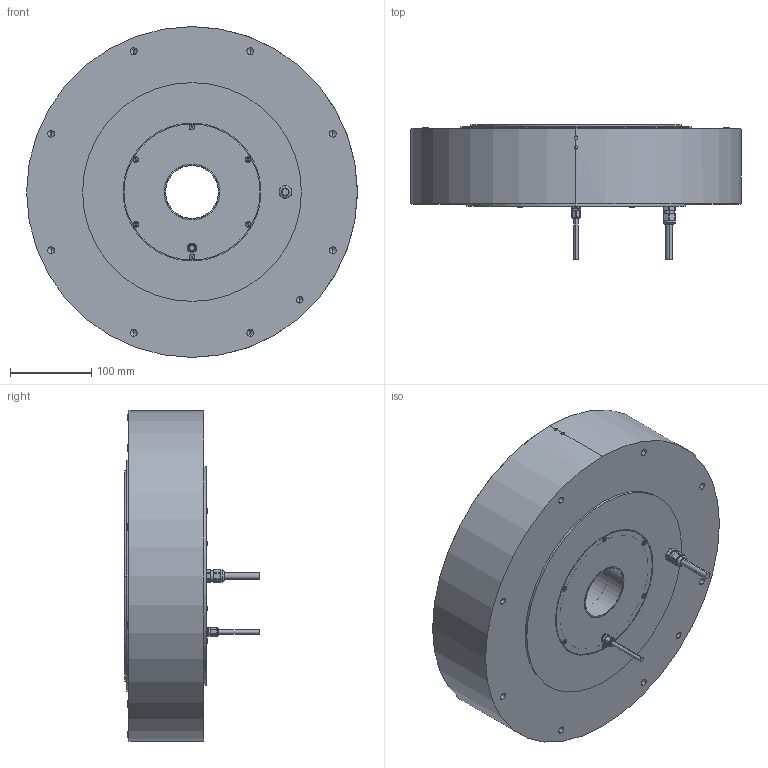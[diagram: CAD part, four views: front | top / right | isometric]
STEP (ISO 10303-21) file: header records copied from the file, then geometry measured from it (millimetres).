
FILE_DESCRIPTION (( 'STEP AP214' ), '1' );
FILE_NAME ('ND400-95-LSP(INC).step', '2025-03-10T02:32:06', ( '' ), ( '' ), 'SwSTEP 2.0', 'SolidWorks 2024', '' );
FILE_SCHEMA (( 'AUTOMOTIVE_DESIGN' ));
Length unit declared in the file: millimetre
Products named in the file (1): ND400-95-LSP(INC)
Bounding box: 408 x 166.1 x 408 mm (x, y, z)
Volume: 4442373.9 mm3; surface area: 821630.8 mm2
Topology: 34 solids, 34 shells, 1155 faces, 2888 edges, 1788 vertices
Faces by surface type: cylinder 616, plane 221, cone 218, torus 68, sphere 32
Entity records: 36750 total; most frequent: CARTESIAN_POINT 9035, DIRECTION 5915, ORIENTED_EDGE 5536, EDGE_CURVE 2768, AXIS2_PLACEMENT_3D 2425, VERTEX_POINT 1788, EDGE_LOOP 1342, CIRCLE 1269
